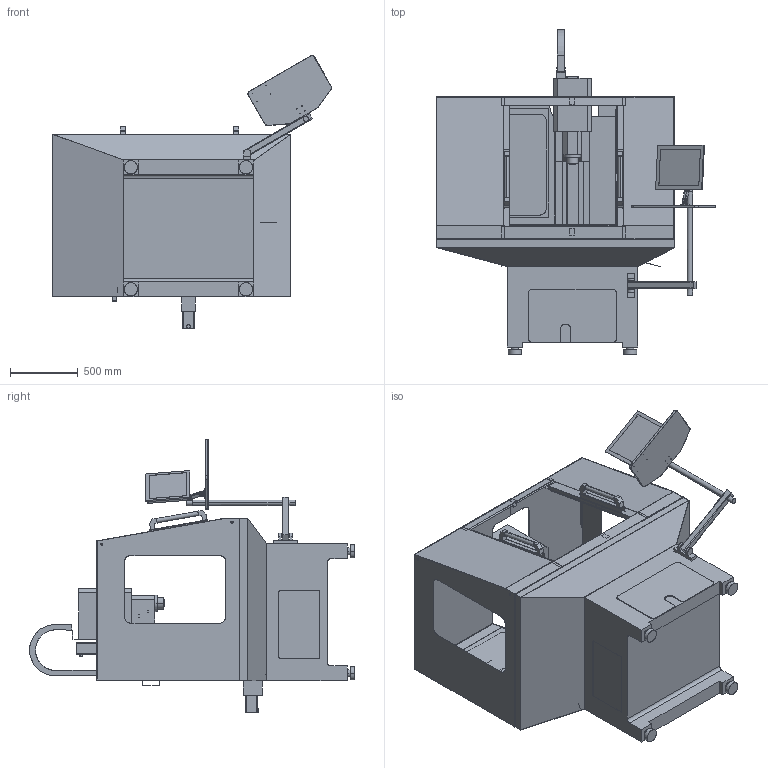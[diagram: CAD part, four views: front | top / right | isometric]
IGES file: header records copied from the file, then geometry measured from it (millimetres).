
Start section: SolidWorks IGES file using analytic representation for surfaces
Global section: file name: P:\Marketing\Simplified Models\1100M_MACHINE_REVA\1100M_MACHINE_REVA.IGS; native system: SolidWorks 2016; preprocessor: SolidWorks 2016; author: cbailey; date: 180711.091704; units: millimetre
Bounding box: 2060.19 x 2395.97 x 2013.95 mm (x, y, z)
Surface area: 32660933.1 mm2 (no closed solid volume)
Topology: 0 solids, 0 shells, 2231 faces, 24203 edges, 24171 vertices
Faces by surface type: bspline 1558, revolution 673
